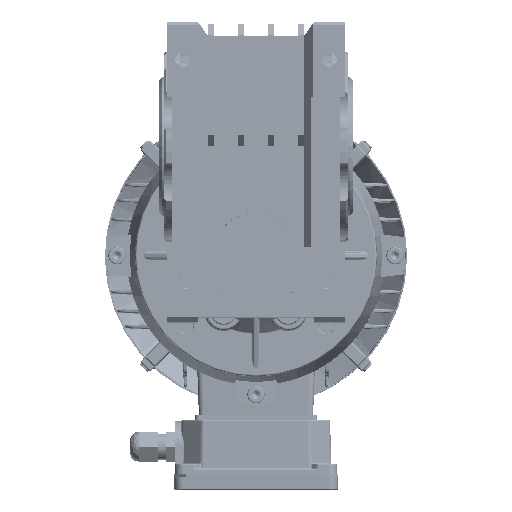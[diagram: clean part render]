
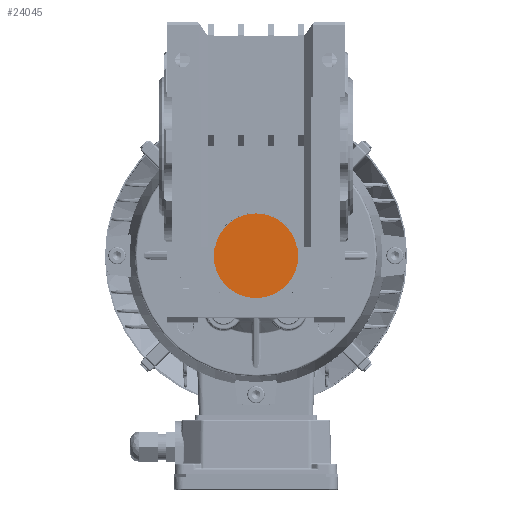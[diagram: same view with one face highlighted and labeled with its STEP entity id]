
A CAD part, top view. The second image highlights one B-rep face of the part: STEP entity #24045.
In plain terms, the highlighted planar face has unit normal (0, 0, 1).
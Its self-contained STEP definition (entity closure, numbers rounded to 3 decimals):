
#631 = CARTESIAN_POINT ( 'NONE',  ( -24.495, 63.345, 72. ) ) ;
#3831 = DIRECTION ( 'NONE',  ( 0., 0., 1. ) ) ;
#5484 = ORIENTED_EDGE ( 'NONE', *, *, #199919, .T. ) ;
#6158 = DIRECTION ( 'NONE',  ( 1., 0., 0. ) ) ;
#7033 = CARTESIAN_POINT ( 'NONE',  ( 24.011, 58.5, 72. ) ) ;
#7419 = AXIS2_PLACEMENT_3D ( 'NONE', #230789, #71314, #37264 ) ;
#12316 = CIRCLE ( 'NONE', #42284, 24.495 ) ;
#20662 = CARTESIAN_POINT ( 'NONE',  ( 0., 58.5, 72. ) ) ;
#23515 = CIRCLE ( 'NONE', #158221, 24.495 ) ;
#24045 = ADVANCED_FACE ( 'NONE', ( #45992 ), #24964, .T. ) ;
#24964 = PLANE ( 'NONE',  #39921 ) ;
#27773 = EDGE_CURVE ( 'NONE', #195231, #97401, #141364, .T. ) ;
#28402 = DIRECTION ( 'NONE',  ( 1., 0., 0. ) ) ;
#37264 = DIRECTION ( 'NONE',  ( 1., 0., 0. ) ) ;
#39921 = AXIS2_PLACEMENT_3D ( 'NONE', #117590, #189087, #28402 ) ;
#41045 = CIRCLE ( 'NONE', #7419, 24.495 ) ;
#42284 = AXIS2_PLACEMENT_3D ( 'NONE', #231762, #71098, #146104 ) ;
#45992 = FACE_OUTER_BOUND ( 'NONE', #77579, .T. ) ;
#58967 = CARTESIAN_POINT ( 'NONE',  ( 0., 63.345, 72. ) ) ;
#71098 = DIRECTION ( 'NONE',  ( 0., 0., 1. ) ) ;
#71314 = DIRECTION ( 'NONE',  ( 0., 0., 1. ) ) ;
#71436 = CARTESIAN_POINT ( 'NONE',  ( 24.495, 63.345, 72. ) ) ;
#77579 = EDGE_LOOP ( 'NONE', ( #183746, #213523, #5484, #232109, #213487, #126923 ) ) ;
#81637 = CARTESIAN_POINT ( 'NONE',  ( 0., 63., 72. ) ) ;
#89165 = AXIS2_PLACEMENT_3D ( 'NONE', #81637, #169568, #171850 ) ;
#89735 = VECTOR ( 'NONE', #93401, 1000. ) ;
#91329 = VERTEX_POINT ( 'NONE', #71436 ) ;
#93401 = DIRECTION ( 'NONE',  ( -1., 0., 0. ) ) ;
#93911 = VERTEX_POINT ( 'NONE', #143288 ) ;
#97401 = VERTEX_POINT ( 'NONE', #128565 ) ;
#97460 = EDGE_CURVE ( 'NONE', #195231, #93911, #126225, .T. ) ;
#108385 = VERTEX_POINT ( 'NONE', #7033 ) ;
#117590 = CARTESIAN_POINT ( 'NONE',  ( -22.659, 85.659, 72. ) ) ;
#118471 = CARTESIAN_POINT ( 'NONE',  ( -23.727, 58.5, 72. ) ) ;
#126225 = LINE ( 'NONE', #20662, #89735 ) ;
#126923 = ORIENTED_EDGE ( 'NONE', *, *, #27773, .T. ) ;
#126997 = VECTOR ( 'NONE', #139290, 1000. ) ;
#128565 = CARTESIAN_POINT ( 'NONE',  ( 23.727, 58.5, 72. ) ) ;
#134851 = EDGE_CURVE ( 'NONE', #108385, #91329, #23515, .T. ) ;
#139290 = DIRECTION ( 'NONE',  ( -1., 0., 0. ) ) ;
#141364 = CIRCLE ( 'NONE', #89165, 24.15 ) ;
#143288 = CARTESIAN_POINT ( 'NONE',  ( -24.011, 58.5, 72. ) ) ;
#145447 = EDGE_CURVE ( 'NONE', #108385, #97401, #208532, .T. ) ;
#146104 = DIRECTION ( 'NONE',  ( 1., 0., 0. ) ) ;
#158113 = VERTEX_POINT ( 'NONE', #631 ) ;
#158221 = AXIS2_PLACEMENT_3D ( 'NONE', #58967, #3831, #6158 ) ;
#169568 = DIRECTION ( 'NONE',  ( 0., 0., 1. ) ) ;
#171850 = DIRECTION ( 'NONE',  ( 1., 0., 0. ) ) ;
#183746 = ORIENTED_EDGE ( 'NONE', *, *, #145447, .F. ) ;
#189087 = DIRECTION ( 'NONE',  ( 0., 0., 1. ) ) ;
#190903 = CARTESIAN_POINT ( 'NONE',  ( 0., 58.5, 72. ) ) ;
#195231 = VERTEX_POINT ( 'NONE', #118471 ) ;
#197342 = EDGE_CURVE ( 'NONE', #158113, #93911, #41045, .T. ) ;
#199919 = EDGE_CURVE ( 'NONE', #91329, #158113, #12316, .T. ) ;
#208532 = LINE ( 'NONE', #190903, #126997 ) ;
#213487 = ORIENTED_EDGE ( 'NONE', *, *, #97460, .F. ) ;
#213523 = ORIENTED_EDGE ( 'NONE', *, *, #134851, .T. ) ;
#230789 = CARTESIAN_POINT ( 'NONE',  ( 0., 63.345, 72. ) ) ;
#231762 = CARTESIAN_POINT ( 'NONE',  ( 0., 63.345, 72. ) ) ;
#232109 = ORIENTED_EDGE ( 'NONE', *, *, #197342, .T. ) ;
